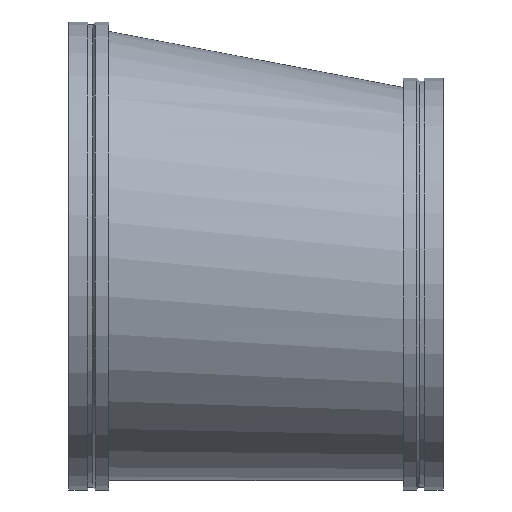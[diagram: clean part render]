
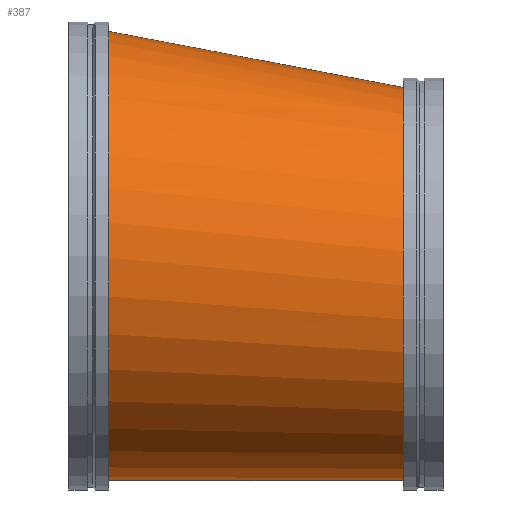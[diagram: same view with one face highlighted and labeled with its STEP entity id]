
A CAD part, top view. The second image highlights one B-rep face of the part: STEP entity #387.
In plain terms, the highlighted free-form (B-spline) face has degree [1, 2] with [2, 9] control points.
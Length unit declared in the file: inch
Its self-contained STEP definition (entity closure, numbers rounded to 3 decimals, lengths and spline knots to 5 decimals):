
#46=B_SPLINE_CURVE_WITH_KNOTS('',1,(#747,#748),.UNSPECIFIED.,.F.,.F.,(2,
2),(-1.32503,-0.00084),.UNSPECIFIED.);
#48=(
BOUNDED_SURFACE()
B_SPLINE_SURFACE(1,2,((#729,#730,#731,#732,#733,#734,#735,#736,#737),(#738,
#739,#740,#741,#742,#743,#744,#745,#746)),.UNSPECIFIED.,.F.,.T.,.F.)
B_SPLINE_SURFACE_WITH_KNOTS((2,2),(3,2,2,2,3),(-0.09439,1.40689),
(-3.14159,-1.5708,0.,1.5708,3.14159),
 .UNSPECIFIED.)
GEOMETRIC_REPRESENTATION_ITEM()
RATIONAL_B_SPLINE_SURFACE(((1.,0.707,1.,0.707,1.,
0.707,1.,0.707,1.),(1.,0.707,1.,0.707,
1.,0.707,1.,0.707,1.)))
REPRESENTATION_ITEM('')
SURFACE()
);
#98=FACE_OUTER_BOUND('',#120,.T.);
#120=EDGE_LOOP('',(#321,#322,#323,#324,#325,#326));
#129=CIRCLE('',#415,21.);
#130=CIRCLE('',#416,21.);
#153=CIRCLE('',#450,24.);
#154=CIRCLE('',#451,24.);
#166=VERTEX_POINT('',#628);
#167=VERTEX_POINT('',#629);
#190=VERTEX_POINT('',#695);
#191=VERTEX_POINT('',#696);
#203=EDGE_CURVE('',#166,#167,#129,.T.);
#204=EDGE_CURVE('',#167,#166,#130,.T.);
#235=EDGE_CURVE('',#190,#191,#153,.T.);
#236=EDGE_CURVE('',#191,#190,#154,.T.);
#243=EDGE_CURVE('',#167,#191,#46,.T.);
#321=ORIENTED_EDGE('',*,*,#203,.T.);
#322=ORIENTED_EDGE('',*,*,#243,.T.);
#323=ORIENTED_EDGE('',*,*,#236,.T.);
#324=ORIENTED_EDGE('',*,*,#235,.T.);
#325=ORIENTED_EDGE('',*,*,#243,.F.);
#326=ORIENTED_EDGE('',*,*,#204,.T.);
#387=ADVANCED_FACE('',(#98),#48,.F.);
#415=AXIS2_PLACEMENT_3D('',#630,#486,#487);
#416=AXIS2_PLACEMENT_3D('',#631,#488,#489);
#450=AXIS2_PLACEMENT_3D('',#697,#564,#565);
#451=AXIS2_PLACEMENT_3D('',#698,#566,#567);
#486=DIRECTION('center_axis',(-1.,0.,0.));
#487=DIRECTION('ref_axis',(0.,-1.,0.));
#488=DIRECTION('center_axis',(-1.,0.,0.));
#489=DIRECTION('ref_axis',(0.,-1.,0.));
#564=DIRECTION('center_axis',(1.,0.,0.));
#565=DIRECTION('ref_axis',(0.,1.,0.));
#566=DIRECTION('center_axis',(1.,0.,0.));
#567=DIRECTION('ref_axis',(0.,1.,0.));
#628=CARTESIAN_POINT('',(35.75,-24.,0.));
#629=CARTESIAN_POINT('',(35.75,-3.1871,20.99917));
#630=CARTESIAN_POINT('Origin',(35.75,-3.,0.));
#631=CARTESIAN_POINT('Origin',(35.75,-3.,0.));
#695=CARTESIAN_POINT('',(4.25,24.,0.));
#696=CARTESIAN_POINT('',(4.25,-0.21383,23.99905));
#697=CARTESIAN_POINT('Origin',(4.25,0.,0.));
#698=CARTESIAN_POINT('Origin',(4.25,0.,0.));
#729=CARTESIAN_POINT('Ctrl Pts',(1.98465,0.,
24.21479));
#730=CARTESIAN_POINT('Ctrl Pts',(-0.2807,-24.,24.21479));
#731=CARTESIAN_POINT('Ctrl Pts',(-0.2807,-24.,0.));
#732=CARTESIAN_POINT('Ctrl Pts',(-0.2807,-24.,-24.21479));
#733=CARTESIAN_POINT('Ctrl Pts',(1.98465,0.,-24.21479));
#734=CARTESIAN_POINT('Ctrl Pts',(4.25,24.,-24.21479));
#735=CARTESIAN_POINT('Ctrl Pts',(4.25,24.,0.));
#736=CARTESIAN_POINT('Ctrl Pts',(4.25,24.,24.21479));
#737=CARTESIAN_POINT('Ctrl Pts',(1.98465,0.,
24.21479));
#738=CARTESIAN_POINT('Ctrl Pts',(37.69717,-3.37089,20.81373));
#739=CARTESIAN_POINT('Ctrl Pts',(35.75,-24.,20.81373));
#740=CARTESIAN_POINT('Ctrl Pts',(35.75,-24.,0.));
#741=CARTESIAN_POINT('Ctrl Pts',(35.75,-24.,-20.81373));
#742=CARTESIAN_POINT('Ctrl Pts',(37.69717,-3.37089,-20.81373));
#743=CARTESIAN_POINT('Ctrl Pts',(39.64435,17.25822,-20.81373));
#744=CARTESIAN_POINT('Ctrl Pts',(39.64435,17.25822,0.));
#745=CARTESIAN_POINT('Ctrl Pts',(39.64435,17.25822,20.81373));
#746=CARTESIAN_POINT('Ctrl Pts',(37.69717,-3.37089,20.81373));
#747=CARTESIAN_POINT('Ctrl Pts',(35.75,-3.1871,20.99917));
#748=CARTESIAN_POINT('Ctrl Pts',(4.25,-0.21383,23.99905));
